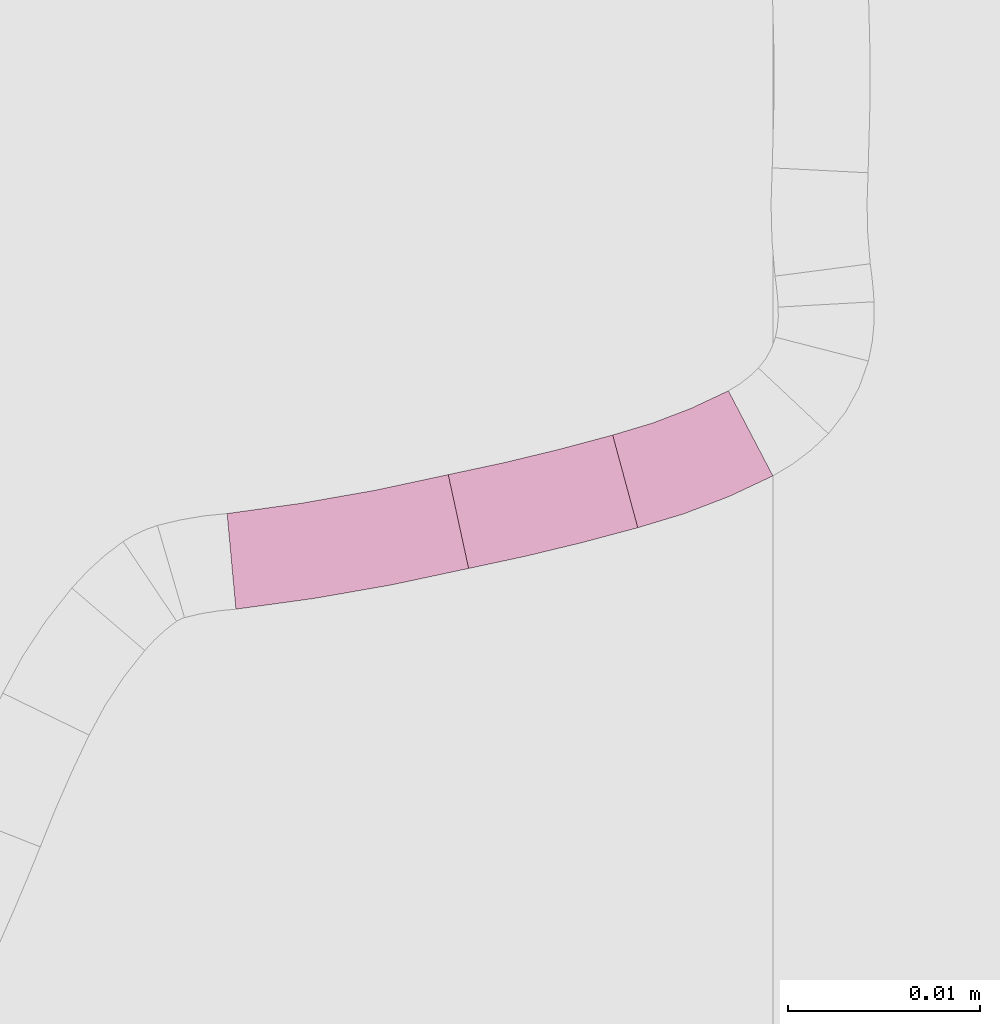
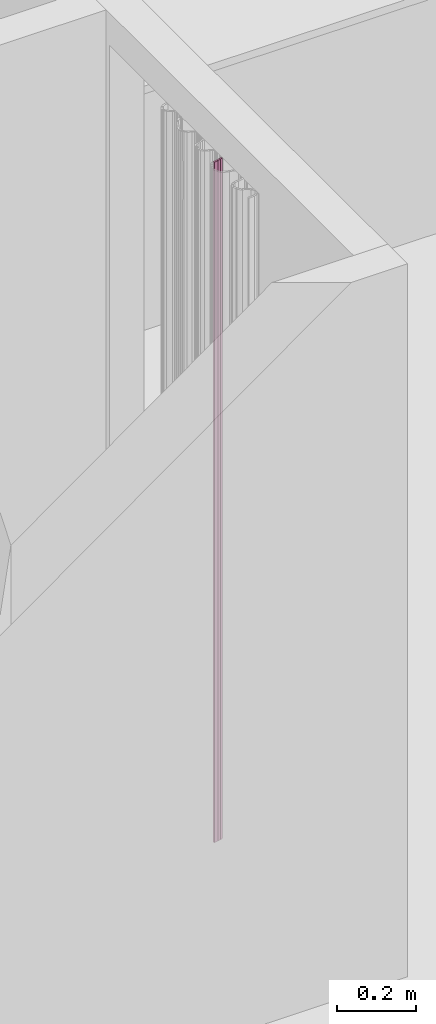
# One storey, part 306 of 418: 3 furnishings.
"""IFC2X3 building model written with IfcOpenShell, lengths in millimetres."""

from ifc_helpers import new_model, entity, si_unit, converted_unit, derived_unit, money_unit, point, direction, frame, frame_2d, origin_with_axes, place, context, subcontext, project, spatial, polyline, circle_curve, parameter, trimmed, segment, composite_curve, outline, extrude, material, type_object, element, save


model = new_model("IFC2X3")

# Units and contexts
model_context = context("Model", 3, precision=0.01, world=origin_with_axes(), true_north=direction((0.0, 1.0)))
body_context = subcontext(model_context, "Body", "Model", "MODEL_VIEW")
ifc_project = project(units=[si_unit("LENGTHUNIT", "METRE", prefix="MILLI"), si_unit("AREAUNIT", "SQUARE_METRE"), si_unit("VOLUMEUNIT", "CUBIC_METRE"), converted_unit("PLANEANGLEUNIT", "DEGREE", entity("IfcPlaneAngleMeasure", 0.0174532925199), si_unit("PLANEANGLEUNIT", "RADIAN"), dimensions=[0, 0, 0, 0, 0, 0, 0]), si_unit("SOLIDANGLEUNIT", "STERADIAN"), money_unit("EUR"), converted_unit("TIMEUNIT", "Year", entity("IfcTimeMeasure", 31556926.0), si_unit("TIMEUNIT", "SECOND"), dimensions=[0, 0, 1, 0, 0, 0, 0]), si_unit("MASSUNIT", "GRAM", prefix="KILO"), si_unit("THERMODYNAMICTEMPERATUREUNIT", "DEGREE_CELSIUS"), si_unit("LUMINOUSINTENSITYUNIT", "LUMEN"), si_unit("ENERGYUNIT", "JOULE", prefix="MEGA"), derived_unit("THERMALCONDUCTANCEUNIT", [(si_unit("POWERUNIT", "WATT"), 1), (si_unit("LENGTHUNIT", "METRE"), -1), (si_unit("THERMODYNAMICTEMPERATUREUNIT", "KELVIN"), -1)]), derived_unit("SPECIFICHEATCAPACITYUNIT", [(si_unit("ENERGYUNIT", "JOULE"), 1), (si_unit("MASSUNIT", "GRAM", prefix="KILO"), -1), (si_unit("THERMODYNAMICTEMPERATUREUNIT", "KELVIN"), -1)]), derived_unit("MASSDENSITYUNIT", [(si_unit("MASSUNIT", "GRAM", prefix="KILO"), 1), (si_unit("VOLUMEUNIT", "CUBIC_METRE"), -1)])], contexts=[model_context])

# Site, building, storey
site_placement = place(None, origin_with_axes())
site = spatial("IfcSite", under=ifc_project, at=site_placement, Name="Paldiski mnt 245/1, Tallinn, Harjumaa", CompositionType="COMPLEX")
building_placement = place(site_placement, origin_with_axes())
building = spatial("IfcBuilding", under=site, at=building_placement, Name="RKAS Hoone üldnimetus (kasutust iseloomustav) -> IFC Project Manager -> SOLIBRI", CompositionType="ELEMENT")
storey_placement = place(building_placement, origin_with_axes())
storey = spatial("IfcBuildingStorey", under=building, at=storey_placement, Name="Esimene korrus", CompositionType="ELEMENT", Elevation=0.0)

# Furnishings
ifc_material = material(Name="KON-00_GENEERILINE - KONSTRUKTSIOON")
furniture_type = type_object("IfcFurnitureType", Name="KON-00_GENEERILINE - KONSTRUKTSIOON 5", AssemblyPlace="NOTDEFINED")
furnishing_1_placement = place(storey_placement, frame((-44050.8302666, -2149.63325408, 0.0), z_axis=(0.0, 0.0, 1.0), x_axis=(0.992889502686, 0.119039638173, 0.0)))
element("IfcFurnishingElement", 1, at=furnishing_1_placement, inside=storey, type_object=furniture_type, material=ifc_material, Name="SS-30", context=body_context, shape_type="SweptSolid", body=[
    extrude(outline(composite_curve([segment(trimmed(circle_curve(frame_2d((0.0, 106.622126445), x_axis=(-0.001237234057, -0.999999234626)), 111.622126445), [point((-0.138102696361, -4.99991456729)), parameter(0.0)], [point((12.1491469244, -4.33686301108)), parameter(6.31943981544)], True, "CARTESIAN"), True, "CONTINUOUS"), segment(polyline([(12.1491469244, -4.33686301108), (11.6772123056, 0.641370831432)]), True, "CONTINUOUS"), segment(trimmed(circle_curve(frame_2d((0.0, 106.622126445), x_axis=(0.0, -1.0)), 106.622126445), [point((11.6772123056, 0.641370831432)), parameter(6.28762318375)], [point((0.0, 0.0)), parameter(0.0)], False, "CARTESIAN"), True, "CONTINUOUS"), segment(polyline([(0.0, 0.0), (-0.138102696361, -4.99991456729)]), True, "CONTINUOUS")], self_intersect=False)), origin_with_axes(), (0.0, 0.0, 1.0), 2100.0),
])
furnishing_2_placement = place(storey_placement, frame((-44039.3124336, -2147.60639259, 0.0), z_axis=(0.0, 0.0, 1.0), x_axis=(0.980334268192, 0.197344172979, 0.0)))
element("IfcFurnishingElement", 2, at=furnishing_2_placement, inside=storey, type_object=furniture_type, material=ifc_material, Name="SS-29", context=body_context, shape_type="SweptSolid", body=[
    extrude(outline(composite_curve([segment(trimmed(circle_curve(frame_2d((0.0, 117.24672326), x_axis=(0.000621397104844, -0.999999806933)), 122.24672326), [point((0.0759637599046, -4.99997639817)), parameter(0.0)], [point((9.1311480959, -4.6585000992)), parameter(4.24806117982)], True, "CARTESIAN"), True, "CONTINUOUS"), segment(polyline([(9.1311480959, -4.6585000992), (8.80238579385, 0.330889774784)]), True, "CONTINUOUS"), segment(trimmed(circle_curve(frame_2d((0.0, 117.246723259), x_axis=(0.0, -1.0)), 117.246723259), [point((8.80238579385, 0.330889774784)), parameter(4.30557478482)], [point((0.0, 0.0)), parameter(0.0)], False, "CARTESIAN"), True, "CONTINUOUS"), segment(polyline([(0.0, 0.0), (0.0759637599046, -4.99997639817)]), True, "CONTINUOUS")], self_intersect=False)), origin_with_axes(), (0.0, 0.0, 1.0), 2100.0),
])
furnishing_3_placement = place(storey_placement, frame((-44030.7484523, -2145.54491046, 0.0), z_axis=(0.0, 0.0, 1.0), x_axis=(0.967779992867, 0.251797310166, 0.0)))
element("IfcFurnishingElement", 3, at=furnishing_3_placement, inside=storey, type_object=furniture_type, material=ifc_material, Name="SS-28", context=body_context, shape_type="SweptSolid", body=[
    extrude(outline(composite_curve([segment(trimmed(circle_curve(frame_2d((0.0, 29.2311572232), x_axis=(0.00144729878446, -0.999998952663)), 34.2311572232), [point((0.0495427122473, -4.99996414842)), parameter(0.0)], [point((7.53927508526, -4.15943211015)), parameter(12.6405573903)], True, "CARTESIAN"), True, "CONTINUOUS"), segment(polyline([(7.53927508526, -4.15943211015), (6.41320119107, 0.712191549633)]), True, "CONTINUOUS"), segment(trimmed(circle_curve(frame_2d((0.0, 29.2311572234), x_axis=(0.0, -1.0)), 29.2311572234), [point((6.41320119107, 0.712191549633)), parameter(12.6735641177)], [point((0.0, 0.0)), parameter(0.0)], False, "CARTESIAN"), True, "CONTINUOUS"), segment(polyline([(0.0, 0.0), (0.0495427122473, -4.99996414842)]), True, "CONTINUOUS")], self_intersect=False)), origin_with_axes(), (0.0, 0.0, 1.0), 2100.0),
])

save(model, "model.ifc")
